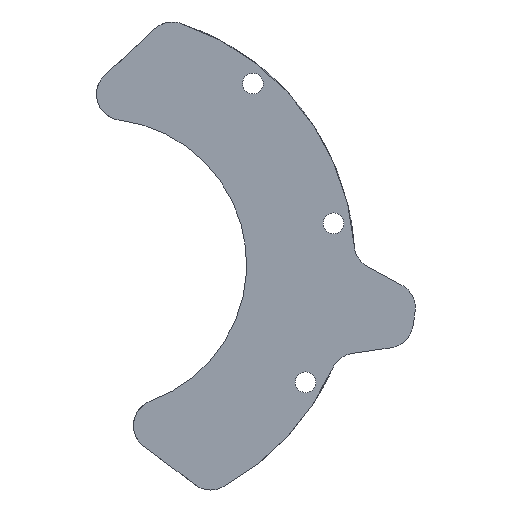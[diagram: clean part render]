
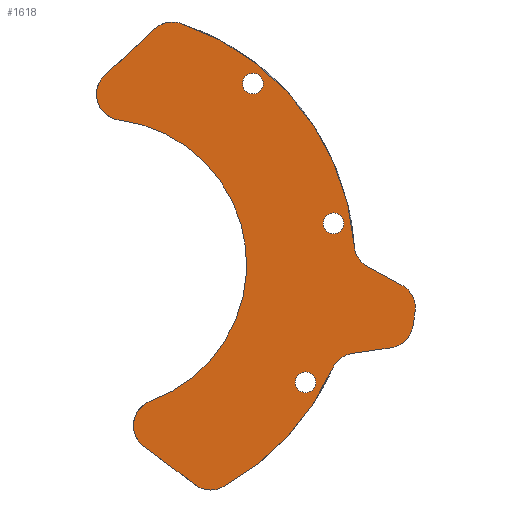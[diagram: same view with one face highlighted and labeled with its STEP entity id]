
A CAD part, left-side view. The second image highlights one B-rep face of the part: STEP entity #1618.
In plain terms, the highlighted planar face has unit normal (-1, 0, 0).
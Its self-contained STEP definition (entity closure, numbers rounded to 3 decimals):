
#9=DIRECTION('',(0.,-0.879,-0.477));
#10=VECTOR('',#9,6.032);
#11=CARTESIAN_POINT('',(-117.,-44.225,-553.349));
#12=LINE('',#11,#10);
#13=CARTESIAN_POINT('',(-117.,-47.617,-559.743));
#14=DIRECTION('',(1.,0.,0.));
#15=DIRECTION('',(0.,-0.477,0.879));
#16=AXIS2_PLACEMENT_3D('',#13,#14,#15);
#18=DIRECTION('',(0.,0.155,-0.988));
#19=VECTOR('',#18,2.233);
#20=CARTESIAN_POINT('',(-117.,-51.568,-560.364));
#21=LINE('',#20,#19);
#22=CARTESIAN_POINT('',(-117.,-47.27,-561.948));
#23=DIRECTION('',(1.,0.,0.));
#24=DIRECTION('',(0.,-0.988,-0.155));
#25=AXIS2_PLACEMENT_3D('',#22,#23,#24);
#27=DIRECTION('',(0.,0.989,-0.145));
#28=VECTOR('',#27,6.054);
#29=CARTESIAN_POINT('',(-117.,-47.851,-565.906));
#30=LINE('',#29,#28);
#31=CARTESIAN_POINT('',(-117.,-42.443,-570.743));
#32=DIRECTION('',(-1.,0.,0.));
#33=DIRECTION('',(0.,0.145,0.989));
#34=AXIS2_PLACEMENT_3D('',#31,#32,#33);
#36=CARTESIAN_POINT('',(-117.,-3.,-553.));
#37=DIRECTION('',(1.,0.,0.));
#38=DIRECTION('',(0.,-0.912,-0.41));
#39=AXIS2_PLACEMENT_3D('',#36,#37,#38);
#41=CARTESIAN_POINT('',(-117.,-19.934,-583.916));
#42=DIRECTION('',(1.,0.,0.));
#43=DIRECTION('',(0.,-0.48,-0.877));
#44=AXIS2_PLACEMENT_3D('',#41,#42,#43);
#46=CARTESIAN_POINT('',(-117.,-19.934,-583.916));
#47=DIRECTION('',(1.,0.,0.));
#48=DIRECTION('',(0.,0.,-1.));
#49=AXIS2_PLACEMENT_3D('',#46,#47,#48);
#51=DIRECTION('',(0.,0.799,0.602));
#52=VECTOR('',#51,9.949);
#53=CARTESIAN_POINT('',(-117.,-17.526,-587.111));
#54=LINE('',#53,#52);
#55=CARTESIAN_POINT('',(-117.,-11.988,-577.929));
#56=DIRECTION('',(1.,0.,0.));
#57=DIRECTION('',(0.,0.602,-0.799));
#58=AXIS2_PLACEMENT_3D('',#55,#56,#57);
#60=CARTESIAN_POINT('',(-117.,-3.,-553.));
#61=DIRECTION('',(-1.,0.,0.));
#62=DIRECTION('',(0.,-0.339,-0.941));
#63=AXIS2_PLACEMENT_3D('',#60,#61,#62);
#65=CARTESIAN_POINT('',(-117.,-6.273,-526.703));
#66=DIRECTION('',(1.,0.,0.));
#67=DIRECTION('',(0.,0.124,-0.992));
#68=AXIS2_PLACEMENT_3D('',#65,#66,#67);
#70=DIRECTION('',(0.,-0.731,0.682));
#71=VECTOR('',#70,10.551);
#72=CARTESIAN_POINT('',(-117.,-3.545,-523.778));
#73=LINE('',#72,#71);
#74=CARTESIAN_POINT('',(-117.,-13.99,-519.507));
#75=DIRECTION('',(1.,0.,0.));
#76=DIRECTION('',(0.,0.682,0.731));
#77=AXIS2_PLACEMENT_3D('',#74,#75,#76);
#79=CARTESIAN_POINT('',(-117.,-13.99,-519.507));
#80=DIRECTION('',(1.,0.,0.));
#81=DIRECTION('',(0.,0.,1.));
#82=AXIS2_PLACEMENT_3D('',#79,#80,#81);
#84=CARTESIAN_POINT('',(-117.,-3.,-553.));
#85=DIRECTION('',(1.,0.,0.));
#86=DIRECTION('',(0.,-0.312,0.95));
#87=AXIS2_PLACEMENT_3D('',#84,#85,#86);
#89=CARTESIAN_POINT('',(-117.,-46.134,-549.834));
#90=DIRECTION('',(-1.,0.,0.));
#91=DIRECTION('',(0.,0.997,-0.073));
#92=AXIS2_PLACEMENT_3D('',#89,#90,#91);
#94=CARTESIAN_POINT('',(-117.,-34.612,-571.247));
#95=DIRECTION('',(-1.,0.,0.));
#96=DIRECTION('',(0.,0.,-1.));
#97=AXIS2_PLACEMENT_3D('',#94,#95,#96);
#99=CARTESIAN_POINT('',(-117.,-34.612,-571.247));
#100=DIRECTION('',(-1.,0.,0.));
#101=DIRECTION('',(0.,0.,1.));
#102=AXIS2_PLACEMENT_3D('',#99,#100,#101);
#104=CARTESIAN_POINT('',(-117.,-38.945,-546.658));
#105=DIRECTION('',(-1.,0.,0.));
#106=DIRECTION('',(0.,0.,-1.));
#107=AXIS2_PLACEMENT_3D('',#104,#105,#106);
#109=CARTESIAN_POINT('',(-117.,-38.945,-546.658));
#110=DIRECTION('',(-1.,0.,0.));
#111=DIRECTION('',(0.,0.,1.));
#112=AXIS2_PLACEMENT_3D('',#109,#110,#111);
#114=CARTESIAN_POINT('',(-117.,-26.459,-525.037));
#115=DIRECTION('',(-1.,0.,0.));
#116=DIRECTION('',(0.,0.,-1.));
#117=AXIS2_PLACEMENT_3D('',#114,#115,#116);
#119=CARTESIAN_POINT('',(-117.,-26.459,-525.037));
#120=DIRECTION('',(-1.,0.,0.));
#121=DIRECTION('',(0.,0.,1.));
#122=AXIS2_PLACEMENT_3D('',#119,#120,#121);
#1247=CARTESIAN_POINT('',(-117.,-38.795,-569.102));
#1248=CARTESIAN_POINT('',(-117.,-21.855,-587.425));
#1249=VERTEX_POINT('',#1247);
#1250=VERTEX_POINT('',#1248);
#1258=CARTESIAN_POINT('',(-117.,-44.225,-553.349));
#1259=CARTESIAN_POINT('',(-117.,-49.526,-556.228));
#1260=VERTEX_POINT('',#1258);
#1261=VERTEX_POINT('',#1259);
#1262=CARTESIAN_POINT('',(-117.,-51.568,-560.364));
#1263=VERTEX_POINT('',#1262);
#1264=CARTESIAN_POINT('',(-117.,-51.221,-562.57));
#1265=VERTEX_POINT('',#1264);
#1266=CARTESIAN_POINT('',(-117.,-47.851,-565.906));
#1267=VERTEX_POINT('',#1266);
#1268=CARTESIAN_POINT('',(-117.,-41.861,-566.786));
#1269=VERTEX_POINT('',#1268);
#1270=CARTESIAN_POINT('',(-117.,-19.934,-587.916));
#1271=VERTEX_POINT('',#1270);
#1272=CARTESIAN_POINT('',(-117.,-17.526,-587.111));
#1273=VERTEX_POINT('',#1272);
#1274=CARTESIAN_POINT('',(-117.,-9.581,-581.124));
#1275=VERTEX_POINT('',#1274);
#1276=CARTESIAN_POINT('',(-117.,-10.632,-574.166));
#1277=VERTEX_POINT('',#1276);
#1278=CARTESIAN_POINT('',(-117.,-5.779,-530.672));
#1279=VERTEX_POINT('',#1278);
#1280=CARTESIAN_POINT('',(-117.,-3.545,-523.778));
#1281=VERTEX_POINT('',#1280);
#1282=CARTESIAN_POINT('',(-117.,-11.262,-516.582));
#1283=VERTEX_POINT('',#1282);
#1284=CARTESIAN_POINT('',(-117.,-13.99,-515.507));
#1285=CARTESIAN_POINT('',(-117.,-15.237,-515.706));
#1286=VERTEX_POINT('',#1284);
#1287=VERTEX_POINT('',#1285);
#1288=CARTESIAN_POINT('',(-117.,-42.145,-550.127));
#1289=VERTEX_POINT('',#1288);
#1290=CARTESIAN_POINT('',(-117.,-34.612,-572.847));
#1291=CARTESIAN_POINT('',(-117.,-34.612,-569.647));
#1292=VERTEX_POINT('',#1290);
#1293=VERTEX_POINT('',#1291);
#1294=CARTESIAN_POINT('',(-117.,-38.945,-548.258));
#1295=CARTESIAN_POINT('',(-117.,-38.945,-545.058));
#1296=VERTEX_POINT('',#1294);
#1297=VERTEX_POINT('',#1295);
#1298=CARTESIAN_POINT('',(-117.,-26.459,-526.637));
#1299=CARTESIAN_POINT('',(-117.,-26.459,-523.437));
#1300=VERTEX_POINT('',#1298);
#1301=VERTEX_POINT('',#1299);
#1558=CARTESIAN_POINT('',(-117.,-3.,-553.));
#1559=DIRECTION('',(1.,0.,0.));
#1560=DIRECTION('',(0.,-1.,0.));
#1561=AXIS2_PLACEMENT_3D('',#1558,#1559,#1560);
#1562=PLANE('',#1561);
#1564=ORIENTED_EDGE('',*,*,#1563,.T.);
#1566=ORIENTED_EDGE('',*,*,#1565,.T.);
#1568=ORIENTED_EDGE('',*,*,#1567,.T.);
#1570=ORIENTED_EDGE('',*,*,#1569,.T.);
#1572=ORIENTED_EDGE('',*,*,#1571,.T.);
#1574=ORIENTED_EDGE('',*,*,#1573,.T.);
#1575=ORIENTED_EDGE('',*,*,#1543,.T.);
#1577=ORIENTED_EDGE('',*,*,#1576,.T.);
#1579=ORIENTED_EDGE('',*,*,#1578,.T.);
#1581=ORIENTED_EDGE('',*,*,#1580,.T.);
#1583=ORIENTED_EDGE('',*,*,#1582,.T.);
#1585=ORIENTED_EDGE('',*,*,#1584,.T.);
#1587=ORIENTED_EDGE('',*,*,#1586,.T.);
#1589=ORIENTED_EDGE('',*,*,#1588,.T.);
#1591=ORIENTED_EDGE('',*,*,#1590,.T.);
#1593=ORIENTED_EDGE('',*,*,#1592,.T.);
#1595=ORIENTED_EDGE('',*,*,#1594,.T.);
#1597=ORIENTED_EDGE('',*,*,#1596,.T.);
#1598=EDGE_LOOP('',(#1564,#1566,#1568,#1570,#1572,#1574,#1575,#1577,#1579,#1581,
#1583,#1585,#1587,#1589,#1591,#1593,#1595,#1597));
#1599=FACE_OUTER_BOUND('',#1598,.F.);
#1601=ORIENTED_EDGE('',*,*,#1600,.T.);
#1603=ORIENTED_EDGE('',*,*,#1602,.T.);
#1604=EDGE_LOOP('',(#1601,#1603));
#1605=FACE_BOUND('',#1604,.F.);
#1607=ORIENTED_EDGE('',*,*,#1606,.T.);
#1609=ORIENTED_EDGE('',*,*,#1608,.T.);
#1610=EDGE_LOOP('',(#1607,#1609));
#1611=FACE_BOUND('',#1610,.F.);
#1613=ORIENTED_EDGE('',*,*,#1612,.T.);
#1615=ORIENTED_EDGE('',*,*,#1614,.T.);
#1616=EDGE_LOOP('',(#1613,#1615));
#1617=FACE_BOUND('',#1616,.F.);
#1618=ADVANCED_FACE('',(#1599,#1605,#1611,#1617),#1562,.F.);
#17=CIRCLE('',#16,4.);
#26=CIRCLE('',#25,4.);
#35=CIRCLE('',#34,4.);
#40=CIRCLE('',#39,39.25);
#45=CIRCLE('',#44,4.);
#50=CIRCLE('',#49,4.);
#59=CIRCLE('',#58,4.);
#64=CIRCLE('',#63,22.5);
#69=CIRCLE('',#68,4.);
#78=CIRCLE('',#77,4.);
#83=CIRCLE('',#82,4.);
#88=CIRCLE('',#87,39.25);
#93=CIRCLE('',#92,4.);
#98=CIRCLE('',#97,1.6);
#103=CIRCLE('',#102,1.6);
#108=CIRCLE('',#107,1.6);
#113=CIRCLE('',#112,1.6);
#118=CIRCLE('',#117,1.6);
#123=CIRCLE('',#122,1.6);
#1543=EDGE_CURVE('',#1249,#1250,#40,.T.);
#1563=EDGE_CURVE('',#1260,#1261,#12,.T.);
#1565=EDGE_CURVE('',#1261,#1263,#17,.T.);
#1567=EDGE_CURVE('',#1263,#1265,#21,.T.);
#1569=EDGE_CURVE('',#1265,#1267,#26,.T.);
#1571=EDGE_CURVE('',#1267,#1269,#30,.T.);
#1573=EDGE_CURVE('',#1269,#1249,#35,.T.);
#1576=EDGE_CURVE('',#1250,#1271,#45,.T.);
#1578=EDGE_CURVE('',#1271,#1273,#50,.T.);
#1580=EDGE_CURVE('',#1273,#1275,#54,.T.);
#1582=EDGE_CURVE('',#1275,#1277,#59,.T.);
#1584=EDGE_CURVE('',#1277,#1279,#64,.T.);
#1586=EDGE_CURVE('',#1279,#1281,#69,.T.);
#1588=EDGE_CURVE('',#1281,#1283,#73,.T.);
#1590=EDGE_CURVE('',#1283,#1286,#78,.T.);
#1592=EDGE_CURVE('',#1286,#1287,#83,.T.);
#1594=EDGE_CURVE('',#1287,#1289,#88,.T.);
#1596=EDGE_CURVE('',#1289,#1260,#93,.T.);
#1600=EDGE_CURVE('',#1292,#1293,#98,.T.);
#1602=EDGE_CURVE('',#1293,#1292,#103,.T.);
#1606=EDGE_CURVE('',#1296,#1297,#108,.T.);
#1608=EDGE_CURVE('',#1297,#1296,#113,.T.);
#1612=EDGE_CURVE('',#1300,#1301,#118,.T.);
#1614=EDGE_CURVE('',#1301,#1300,#123,.T.);
